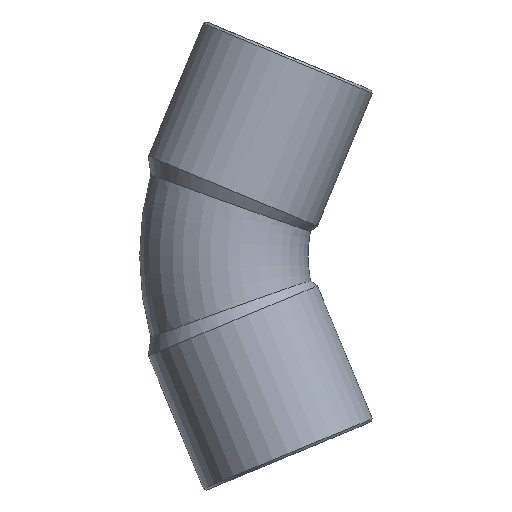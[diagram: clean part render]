
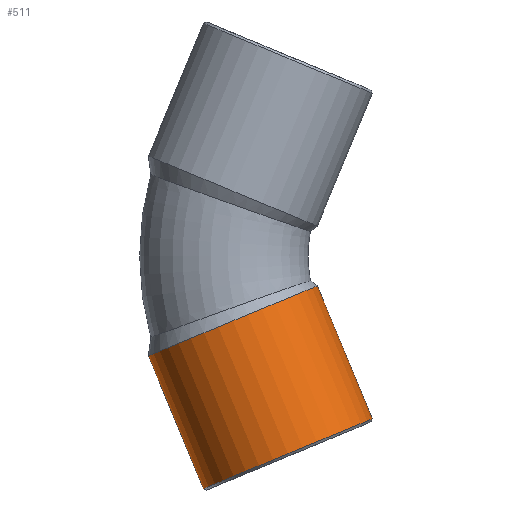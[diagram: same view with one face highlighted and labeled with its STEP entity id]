
A CAD part, front view. The second image highlights one B-rep face of the part: STEP entity #511.
In plain terms, the highlighted cylindrical face has radius 7.6 mm (diameter 15.2 mm), a partial arc.
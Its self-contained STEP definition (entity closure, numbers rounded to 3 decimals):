
#201=CARTESIAN_POINT('',(-19.835,0.,-8.303));
#202=VERTEX_POINT('',#201);
#209=CARTESIAN_POINT('',(-5.792,0.,-2.486));
#210=VERTEX_POINT('',#209);
#211=CARTESIAN_POINT('',(-12.814,0.,-5.395));
#212=DIRECTION('',(-0.383,0.,0.924));
#213=DIRECTION('',(0.924,0.,0.383));
#214=AXIS2_PLACEMENT_3D('',#211,#212,#213);
#215=CIRCLE('',#214,7.6);
#216=EDGE_CURVE('',#202,#210,#215,.T.);
#480=CARTESIAN_POINT('',(-12.752,0.,-5.543));
#481=DIRECTION('',(0.383,0.,-0.924));
#482=DIRECTION('',(0.924,0.,0.383));
#483=AXIS2_PLACEMENT_3D('',#480,#481,#482);
#484=CYLINDRICAL_SURFACE('',#483,7.6);
#485=CARTESIAN_POINT('',(-1.215,0.,-13.537));
#486=VERTEX_POINT('',#485);
#487=CARTESIAN_POINT('',(-5.792,0.,-2.486));
#488=DIRECTION('',(0.383,0.,-0.924));
#489=VECTOR('',#488,11.961);
#490=LINE('',#487,#489);
#491=EDGE_CURVE('',#210,#486,#490,.T.);
#492=ORIENTED_EDGE('',*,*,#491,.F.);
#493=ORIENTED_EDGE('',*,*,#216,.F.);
#494=CARTESIAN_POINT('',(-15.258,0.,-19.353));
#495=VERTEX_POINT('',#494);
#496=CARTESIAN_POINT('',(-15.258,0.,-19.353));
#497=DIRECTION('',(-0.383,0.,0.924));
#498=VECTOR('',#497,11.961);
#499=LINE('',#496,#498);
#500=EDGE_CURVE('',#495,#202,#499,.T.);
#501=ORIENTED_EDGE('',*,*,#500,.F.);
#502=CARTESIAN_POINT('',(-8.236,0.,-16.445));
#503=DIRECTION('',(0.383,0.,-0.924));
#504=DIRECTION('',(0.924,0.,0.383));
#505=AXIS2_PLACEMENT_3D('',#502,#503,#504);
#506=CIRCLE('',#505,7.6);
#507=EDGE_CURVE('',#486,#495,#506,.T.);
#508=ORIENTED_EDGE('',*,*,#507,.F.);
#509=EDGE_LOOP('',(#492,#493,#501,#508));
#510=FACE_OUTER_BOUND('',#509,.T.);
#511=ADVANCED_FACE('',(#510),#484,.T.);
